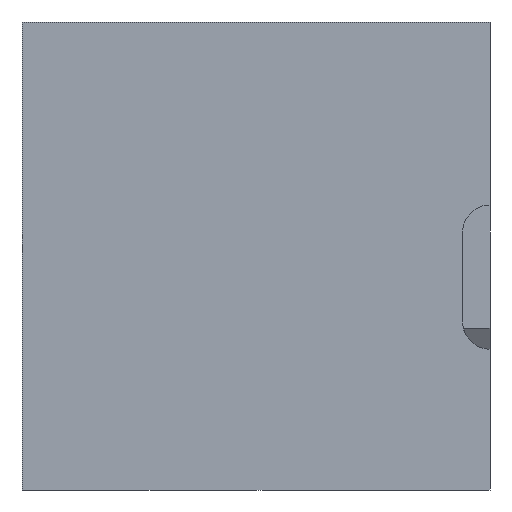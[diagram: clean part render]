
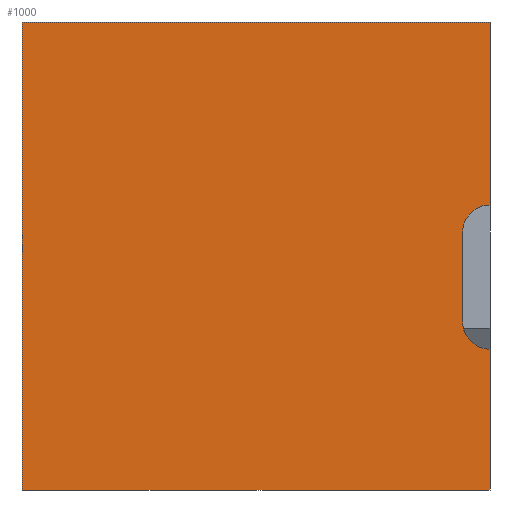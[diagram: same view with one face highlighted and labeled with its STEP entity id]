
A CAD part, left-side view. The second image highlights one B-rep face of the part: STEP entity #1000.
In plain terms, the highlighted planar face has unit normal (-1, 0, 0).
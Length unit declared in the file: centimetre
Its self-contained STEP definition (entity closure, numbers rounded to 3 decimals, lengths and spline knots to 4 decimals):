
#11 = EDGE_CURVE ( 'NONE', #442, #400, #619, .T. ) ;
#85 = VERTEX_POINT ( 'NONE', #1047 ) ;
#93 = DIRECTION ( 'NONE',  ( -1., 0., 0. ) ) ;
#103 = VECTOR ( 'NONE', #504, 100. ) ;
#108 = AXIS2_PLACEMENT_3D ( 'NONE', #672, #571, #575 ) ;
#109 = DIRECTION ( 'NONE',  ( 0., 0., -1. ) ) ;
#125 = VECTOR ( 'NONE', #1040, 100. ) ;
#144 = CARTESIAN_POINT ( 'NONE',  ( 0., 58.4346, 359.1541 ) ) ;
#185 = VERTEX_POINT ( 'NONE', #144 ) ;
#187 = EDGE_CURVE ( 'NONE', #400, #924, #741, .T. ) ;
#193 = CARTESIAN_POINT ( 'NONE',  ( 0., 1000., 1000. ) ) ;
#208 = CARTESIAN_POINT ( 'NONE',  ( 0., 1000., 0. ) ) ;
#212 = ORIENTED_EDGE ( 'NONE', *, *, #187, .F. ) ;
#216 = LINE ( 'NONE', #544, #125 ) ;
#266 = LINE ( 'NONE', #936, #657 ) ;
#283 = CARTESIAN_POINT ( 'NONE',  ( 0., 0., 359.1541 ) ) ;
#294 = EDGE_CURVE ( 'NONE', #403, #442, #1079, .T. ) ;
#367 = DIRECTION ( 'NONE',  ( 0., 0., 1. ) ) ;
#384 = EDGE_LOOP ( 'NONE', ( #817, #532, #874, #212, #999, #719, #594, #503 ) ) ;
#400 = VERTEX_POINT ( 'NONE', #1018 ) ;
#403 = VERTEX_POINT ( 'NONE', #193 ) ;
#413 = LINE ( 'NONE', #990, #956 ) ;
#442 = VERTEX_POINT ( 'NONE', #460 ) ;
#444 = VERTEX_POINT ( 'NONE', #208 ) ;
#460 = CARTESIAN_POINT ( 'NONE',  ( 0., 0., 1000. ) ) ;
#477 = CARTESIAN_POINT ( 'NONE',  ( 0., 0., 550.6739 ) ) ;
#487 = EDGE_CURVE ( 'NONE', #444, #85, #622, .T. ) ;
#495 = EDGE_CURVE ( 'NONE', #924, #185, #216, .T. ) ;
#503 = ORIENTED_EDGE ( 'NONE', *, *, #487, .T. ) ;
#504 = DIRECTION ( 'NONE',  ( 0., -1., 0. ) ) ;
#532 = ORIENTED_EDGE ( 'NONE', *, *, #543, .F. ) ;
#543 = EDGE_CURVE ( 'NONE', #185, #713, #881, .T. ) ;
#544 = CARTESIAN_POINT ( 'NONE',  ( 0., 58.4346, 550.6739 ) ) ;
#566 = DIRECTION ( 'NONE',  ( 0., 0., -1. ) ) ;
#571 = DIRECTION ( 'NONE',  ( 1., 0., 0. ) ) ;
#573 = DIRECTION ( 'NONE',  ( -1., 0., 0. ) ) ;
#575 = DIRECTION ( 'NONE',  ( 0., 0., -1. ) ) ;
#579 = CARTESIAN_POINT ( 'NONE',  ( 0., 1000., 1000. ) ) ;
#594 = ORIENTED_EDGE ( 'NONE', *, *, #891, .T. ) ;
#611 = DIRECTION ( 'NONE',  ( 0., -1., 0. ) ) ;
#619 = LINE ( 'NONE', #985, #756 ) ;
#622 = LINE ( 'NONE', #968, #791 ) ;
#646 = EDGE_CURVE ( 'NONE', #713, #85, #266, .T. ) ;
#657 = VECTOR ( 'NONE', #109, 100. ) ;
#670 = DIRECTION ( 'NONE',  ( 0., 0., 1. ) ) ;
#672 = CARTESIAN_POINT ( 'NONE',  ( 0., 1000., 1000. ) ) ;
#713 = VERTEX_POINT ( 'NONE', #797 ) ;
#719 = ORIENTED_EDGE ( 'NONE', *, *, #294, .F. ) ;
#741 = CIRCLE ( 'NONE', #1017, 58.4346 ) ;
#756 = VECTOR ( 'NONE', #973, 100. ) ;
#791 = VECTOR ( 'NONE', #611, 100. ) ;
#797 = CARTESIAN_POINT ( 'NONE',  ( 0., 0., 300.7196 ) ) ;
#817 = ORIENTED_EDGE ( 'NONE', *, *, #646, .F. ) ;
#820 = FACE_OUTER_BOUND ( 'NONE', #384, .T. ) ;
#832 = CARTESIAN_POINT ( 'NONE',  ( 0., 58.4346, 550.6739 ) ) ;
#841 = AXIS2_PLACEMENT_3D ( 'NONE', #283, #93, #367 ) ;
#874 = ORIENTED_EDGE ( 'NONE', *, *, #495, .F. ) ;
#881 = CIRCLE ( 'NONE', #841, 58.4346 ) ;
#891 = EDGE_CURVE ( 'NONE', #403, #444, #413, .T. ) ;
#924 = VERTEX_POINT ( 'NONE', #832 ) ;
#936 = CARTESIAN_POINT ( 'NONE',  ( 0., 0., 1000. ) ) ;
#956 = VECTOR ( 'NONE', #566, 100. ) ;
#968 = CARTESIAN_POINT ( 'NONE',  ( 0., 1000., 0. ) ) ;
#973 = DIRECTION ( 'NONE',  ( 0., 0., -1. ) ) ;
#985 = CARTESIAN_POINT ( 'NONE',  ( 0., 0., 1000. ) ) ;
#990 = CARTESIAN_POINT ( 'NONE',  ( 0., 1000., 1000. ) ) ;
#998 = PLANE ( 'NONE',  #108 ) ;
#999 = ORIENTED_EDGE ( 'NONE', *, *, #11, .F. ) ;
#1000 = ADVANCED_FACE ( 'NONE', ( #820 ), #998, .F. ) ;
#1017 = AXIS2_PLACEMENT_3D ( 'NONE', #477, #573, #670 ) ;
#1018 = CARTESIAN_POINT ( 'NONE',  ( 0., 0., 609.1084 ) ) ;
#1040 = DIRECTION ( 'NONE',  ( 0., 0., -1. ) ) ;
#1047 = CARTESIAN_POINT ( 'NONE',  ( 0., 0., 0. ) ) ;
#1079 = LINE ( 'NONE', #579, #103 ) ;
